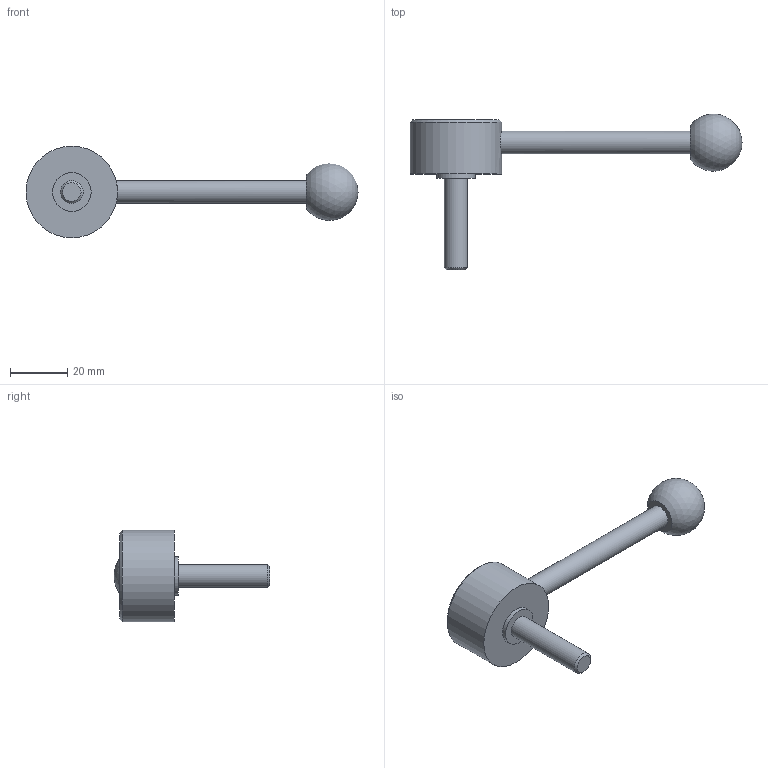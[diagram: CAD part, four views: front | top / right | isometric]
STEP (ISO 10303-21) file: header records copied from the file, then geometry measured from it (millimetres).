
FILE_DESCRIPTION( ( 'STEP AP203' ), '1' );
FILE_NAME( 'C:/Temp/Ganter_Step_05_03_2020/data/2_1/gn_125/gn_125_ms/gn_125_ms_d/Flat Adjustable Lever GN 125-32-M8-32-D.stp', '2020-03-05T11:00:44', ( 'License CC BY-ND 4.0' ), ( 'CADENAS' ), ' ', 'PARTsolutions', ' ' );
FILE_SCHEMA( ( 'CONFIG_CONTROL_DESIGN' ) );
Length unit declared in the file: millimetre
Products named in the file (1): _Flat Adjustable Lever GN 125-32-M8-32-D
Bounding box: 116 x 54.43 x 32 mm (x, y, z)
Volume: 24348.2 mm3; surface area: 7139.7 mm2
Topology: 1 solids, 1 shells, 14 faces, 23 edges, 15 vertices
Faces by surface type: plane 6, cylinder 5, cone 2, sphere 1
Full cylindrical faces by diameter (mm): 8 x2, 13.5 x1, 22 x1, 32 x1
Entity records: 384 total; most frequent: CARTESIAN_POINT 107, DIRECTION 54, AXIS2_PLACEMENT_3D 27, EDGE_LOOP 26, ORIENTED_EDGE 26, FACE_OUTER_BOUND 19, ADVANCED_FACE 14, VERTEX_POINT 14
